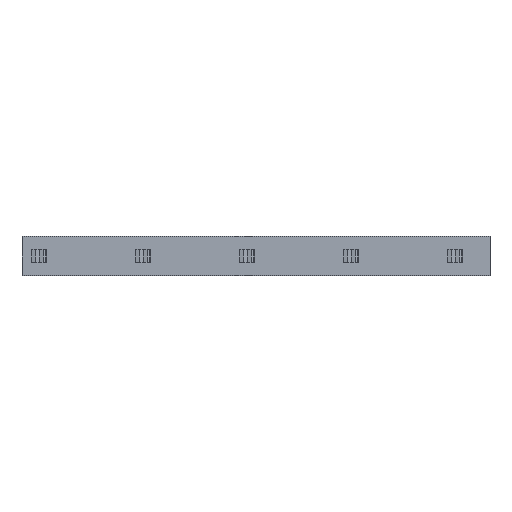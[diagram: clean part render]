
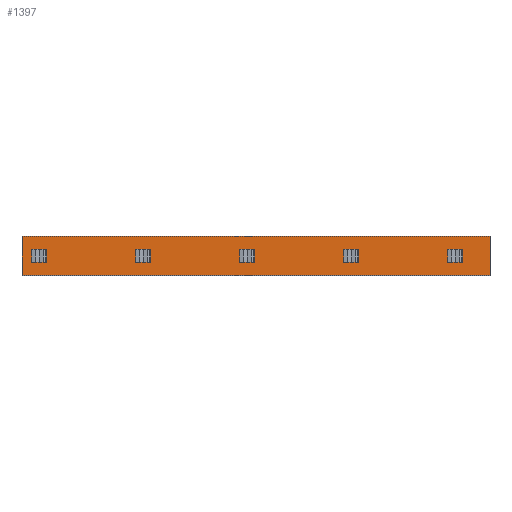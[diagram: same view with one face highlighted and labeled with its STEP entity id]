
A CAD part, top view. The second image highlights one B-rep face of the part: STEP entity #1397.
In plain terms, the highlighted planar face has unit normal (0, 0, 1).
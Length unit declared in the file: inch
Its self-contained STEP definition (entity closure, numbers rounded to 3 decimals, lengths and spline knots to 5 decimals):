
#119=FACE_OUTER_BOUND('',#217,.T.);
#217=EDGE_LOOP('',(#939,#940,#941,#942));
#311=LINE('',#2104,#467);
#315=LINE('',#2112,#471);
#318=LINE('',#2118,#474);
#321=LINE('',#2123,#477);
#467=VECTOR('',#1648,6.);
#471=VECTOR('',#1654,72.);
#474=VECTOR('',#1659,6.);
#477=VECTOR('',#1664,72.);
#623=VERTEX_POINT('',#2102);
#624=VERTEX_POINT('',#2103);
#627=VERTEX_POINT('',#2111);
#629=VERTEX_POINT('',#2117);
#727=EDGE_CURVE('',#623,#624,#311,.T.);
#731=EDGE_CURVE('',#624,#627,#315,.T.);
#734=EDGE_CURVE('',#627,#629,#318,.T.);
#737=EDGE_CURVE('',#629,#623,#321,.T.);
#939=ORIENTED_EDGE('',*,*,#727,.F.);
#940=ORIENTED_EDGE('',*,*,#737,.F.);
#941=ORIENTED_EDGE('',*,*,#734,.F.);
#942=ORIENTED_EDGE('',*,*,#731,.F.);
#1319=PLANE('',#1499);
#1397=ADVANCED_FACE('',(#119),#1319,.T.);
#1499=AXIS2_PLACEMENT_3D('',#2125,#1666,#1667);
#1648=DIRECTION('',(0.,-1.,0.));
#1654=DIRECTION('',(-1.,0.,0.));
#1659=DIRECTION('',(0.,1.,0.));
#1664=DIRECTION('',(1.,0.,0.));
#1666=DIRECTION('center_axis',(0.,0.,1.));
#1667=DIRECTION('ref_axis',(1.,0.,0.));
#2102=CARTESIAN_POINT('',(36.,3.,0.0593));
#2103=CARTESIAN_POINT('',(36.,-3.,0.0593));
#2104=CARTESIAN_POINT('',(36.,3.,0.0593));
#2111=CARTESIAN_POINT('',(-36.,-3.,0.0593));
#2112=CARTESIAN_POINT('',(36.,-3.,0.0593));
#2117=CARTESIAN_POINT('',(-36.,3.,0.0593));
#2118=CARTESIAN_POINT('',(-36.,-3.,0.0593));
#2123=CARTESIAN_POINT('',(-36.,3.,0.0593));
#2125=CARTESIAN_POINT('Origin',(0.,0.,
0.0593));
